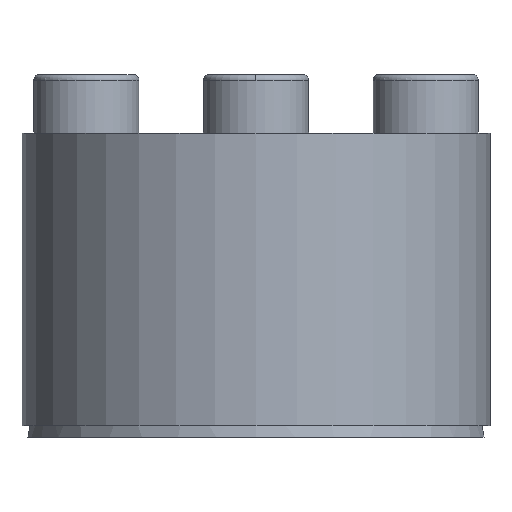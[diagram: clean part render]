
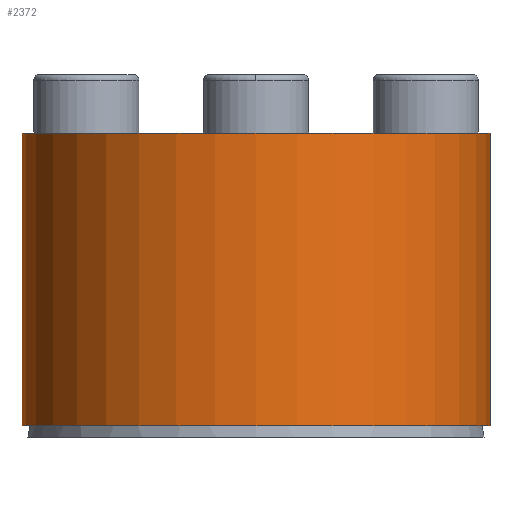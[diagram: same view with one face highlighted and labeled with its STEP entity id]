
A CAD part, front view. The second image highlights one B-rep face of the part: STEP entity #2372.
In plain terms, the highlighted cylindrical face has radius 10 mm (diameter 20 mm), a partial arc.
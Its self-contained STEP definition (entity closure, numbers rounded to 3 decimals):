
#629 = ORIENTED_EDGE ( 'NONE', *, *, #1103, .T. ) ;
#1017 = LINE ( 'NONE', #1084, #1190 ) ;
#1051 = DIRECTION ( 'NONE',  ( 0., 0., -1. ) ) ;
#1070 = DIRECTION ( 'NONE',  ( 0., 0., 1. ) ) ;
#1084 = CARTESIAN_POINT ( 'NONE',  ( 10., 0., 0.512 ) ) ;
#1103 = EDGE_CURVE ( 'NONE', #5828, #5415, #1017, .T. ) ;
#1179 = CARTESIAN_POINT ( 'NONE',  ( 0., 0., 0.512 ) ) ;
#1190 = VECTOR ( 'NONE', #1070, 1000. ) ;
#1620 = VERTEX_POINT ( 'NONE', #6950 ) ;
#1679 = CARTESIAN_POINT ( 'NONE',  ( 10., 0., 0.512 ) ) ;
#1694 = ORIENTED_EDGE ( 'NONE', *, *, #1787, .T. ) ;
#1787 = EDGE_CURVE ( 'NONE', #2347, #5828, #4438, .T. ) ;
#2152 = DIRECTION ( 'NONE',  ( 0., 0., 1. ) ) ;
#2343 = AXIS2_PLACEMENT_3D ( 'NONE', #3992, #3984, #3958 ) ;
#2347 = VERTEX_POINT ( 'NONE', #2541 ) ;
#2372 = ADVANCED_FACE ( 'NONE', ( #4961 ), #3562, .T. ) ;
#2541 = CARTESIAN_POINT ( 'NONE',  ( -10., 0., 0.512 ) ) ;
#2594 = CARTESIAN_POINT ( 'NONE',  ( 10., 0., 13.012 ) ) ;
#2864 = DIRECTION ( 'NONE',  ( 0., 0., 1. ) ) ;
#3182 = VECTOR ( 'NONE', #2864, 1000. ) ;
#3442 = AXIS2_PLACEMENT_3D ( 'NONE', #1179, #2152, #3596 ) ;
#3501 = ORIENTED_EDGE ( 'NONE', *, *, #7303, .T. ) ;
#3562 = CYLINDRICAL_SURFACE ( 'NONE', #3442, 10. ) ;
#3596 = DIRECTION ( 'NONE',  ( 1., 0., 0. ) ) ;
#3958 = DIRECTION ( 'NONE',  ( 1., 0., 0. ) ) ;
#3984 = DIRECTION ( 'NONE',  ( 0., 0., 1. ) ) ;
#3992 = CARTESIAN_POINT ( 'NONE',  ( 0., 0., 0.512 ) ) ;
#4029 = CIRCLE ( 'NONE', #5312, 10. ) ;
#4438 = CIRCLE ( 'NONE', #2343, 10. ) ;
#4739 = CARTESIAN_POINT ( 'NONE',  ( 0., 0., 13.012 ) ) ;
#4961 = FACE_OUTER_BOUND ( 'NONE', #6717, .T. ) ;
#5181 = EDGE_CURVE ( 'NONE', #2347, #1620, #6021, .T. ) ;
#5312 = AXIS2_PLACEMENT_3D ( 'NONE', #4739, #1051, #5318 ) ;
#5318 = DIRECTION ( 'NONE',  ( 1., 0., 0. ) ) ;
#5415 = VERTEX_POINT ( 'NONE', #2594 ) ;
#5630 = ORIENTED_EDGE ( 'NONE', *, *, #5181, .F. ) ;
#5828 = VERTEX_POINT ( 'NONE', #1679 ) ;
#6021 = LINE ( 'NONE', #6378, #3182 ) ;
#6378 = CARTESIAN_POINT ( 'NONE',  ( -10., 0., 0.512 ) ) ;
#6717 = EDGE_LOOP ( 'NONE', ( #5630, #1694, #629, #3501 ) ) ;
#6950 = CARTESIAN_POINT ( 'NONE',  ( -10., 0., 13.012 ) ) ;
#7303 = EDGE_CURVE ( 'NONE', #5415, #1620, #4029, .T. ) ;
